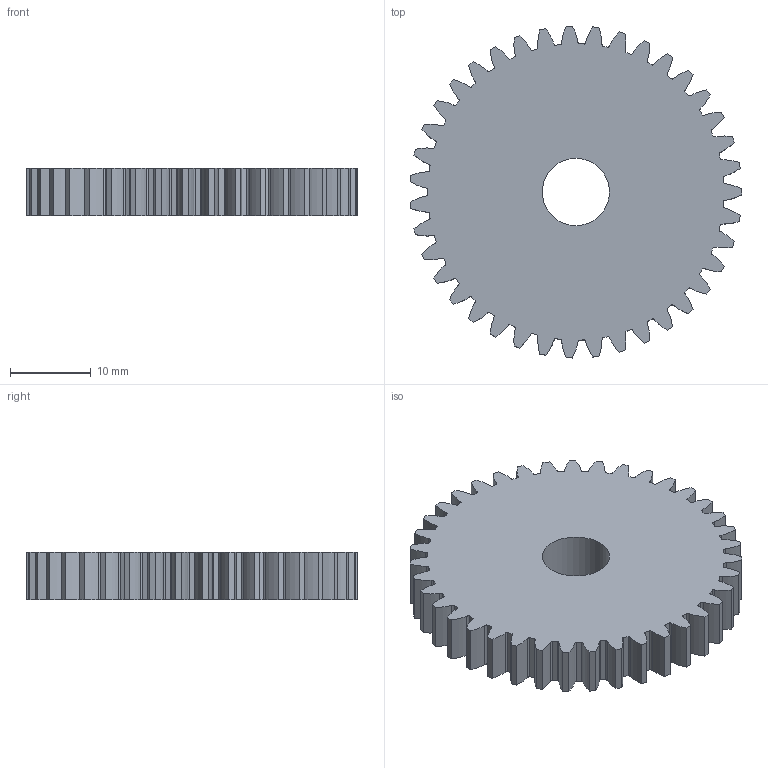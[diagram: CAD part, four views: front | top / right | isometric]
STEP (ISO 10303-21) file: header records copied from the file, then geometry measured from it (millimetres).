
FILE_DESCRIPTION(('Mechanical CAD reference from nasji.com'),'2;1');
FILE_NAME('NASJI.step','',(''),(''),'','NASJI distribution','');
FILE_SCHEMA(('AUTOMOTIVE_DESIGN { 1 0 10303 214 1 1 1 1 }'));
Length unit declared in the file: millimetre
Products named in the file (1): Open CASCADE STEP translator 7.8 193
Bounding box: 40.96 x 40.99 x 5.9 mm (x, y, z)
Volume: 6679.6 mm3; surface area: 3844.6 mm2
Topology: 1 solids, 1 shells, 237 faces, 705 edges, 470 vertices
Faces by surface type: bspline 234, plane 2, cylinder 1
Full cylindrical faces by diameter (mm): 8.3 x1
Entity records: 16966 total; most frequent: CARTESIAN_POINT 7047, ORIENTED_EDGE 1410, PCURVE 1410, DEFINITIONAL_REPRESENTATION 1410, DIRECTION 953, LINE 941, VECTOR 941, EDGE_CURVE 705
